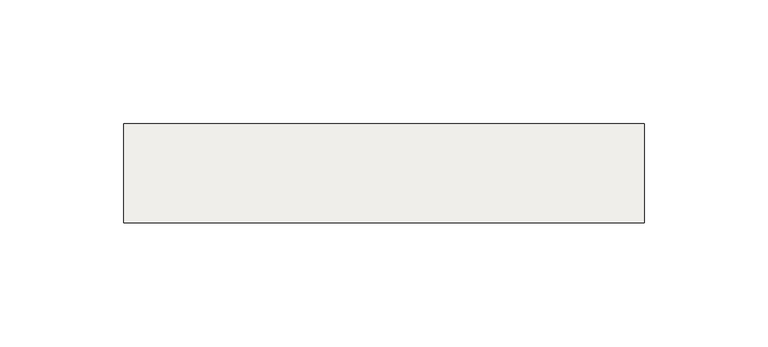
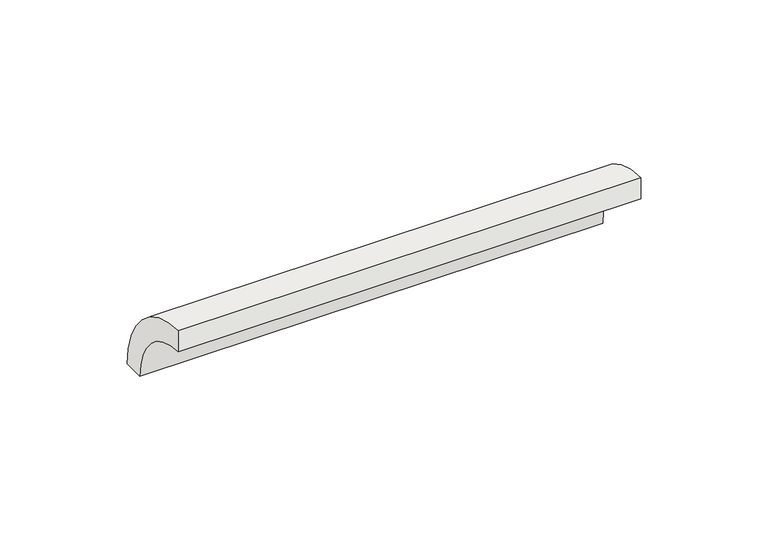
"""IFC4 building model written with IfcOpenShell, lengths in millimetres: slab geometry, ROSA GRES_183 : Pieza 183_Tresor_Java_Anti-Slip."""

from ifc_helpers import new_model, si_unit, point, frame, frame_2d, origin, origin_2d, place, context, project, spatial, polyline, circle_curve, trimmed, segment, composite_curve, outline, extrude, source, transform, mapped, element, save


def slab_cf50c713(model_context):
    return source(origin(), model_context, "Body", "SweptSolid", [
        extrude(outline(composite_curve([segment(trimmed(circle_curve(origin_2d(), 40.0), [point((0.0, 40.0))], [point((40.0, 0.0))], False, "CARTESIAN"), True, "CONTINUOUS"), segment(polyline([(40.0, 0.0), (30.0265886, 0.0)]), True, "CONTINUOUS"), segment(trimmed(circle_curve(frame_2d((0.0044453, 0.0044453)), 30.0221435), [point((30.0265886, 0.0))], [point((0.0, 30.0265886))], True, "CARTESIAN"), True, "CONTINUOUS"), segment(polyline([(0.0, 30.0265886), (0.0, 40.0)]), True, "CONTINUOUS")], self_intersect=False)), frame((0.0, 0.0, 0.0), z_axis=(1.0, 0.0, 0.0), x_axis=(0.0, 1.0, 0.0)), (0.0, 0.0, 1.0), 210.0000003),
    ])


if __name__ == "__main__":
    model = new_model("IFC4")
    model_context = context("Model", 3, world=origin())
    ifc_project = project(units=[si_unit("LENGTHUNIT", "METRE", prefix="MILLI")], contexts=[model_context])
    site = spatial("IfcSite", under=ifc_project)
    building = spatial("IfcBuilding", under=site)
    placement = place(None, origin())
    slab_shape = slab_cf50c713(model_context)
    element("IfcSlab", 1, ObjectType="ROSA GRES_183 : Pieza 183_Tresor_Java_Anti-Slip", at=placement, inside=building, context=model_context, shape_type="MappedRepresentation", body=[
        mapped(slab_shape, transform((0.0, 0.0, 0.0), x_axis=(1.0, 0.0, 0.0), y_axis=(0.0, 1.0, 0.0), z_axis=(0.0, 0.0, 1.0))),
    ])
    save(model, "model.ifc")
